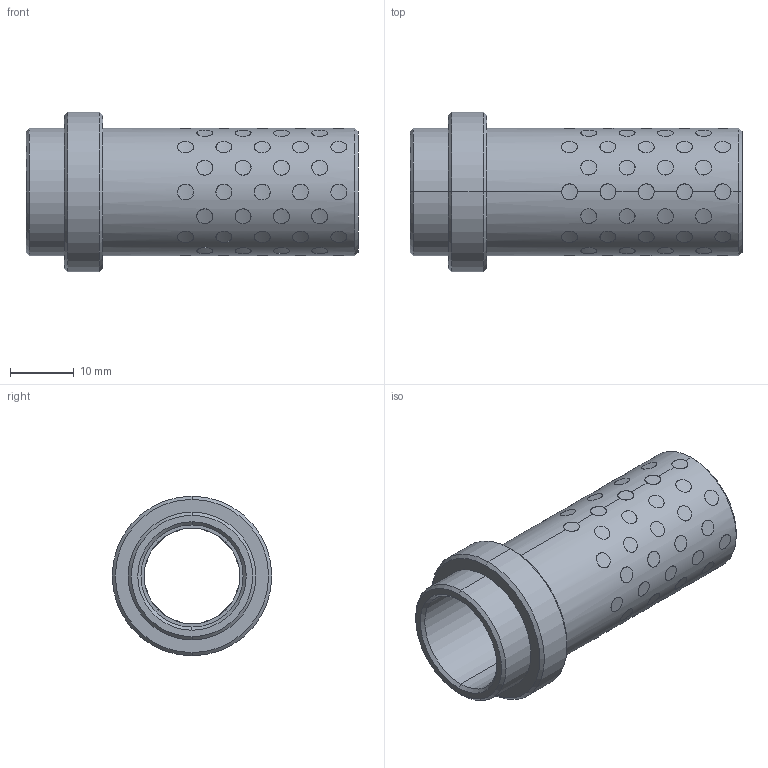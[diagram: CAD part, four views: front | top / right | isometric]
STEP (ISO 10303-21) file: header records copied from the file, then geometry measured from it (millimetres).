
FILE_DESCRIPTION((''),'2;1');
FILE_NAME('G31215046','2017-12-30T',('MANU'),(''),'PRO/ENGINEER BY PARAMETRIC TECHNOLOGY CORPORATION, 2012130','PRO/ENGINEER BY PARAMETRIC TECHNOLOGY CORPORATION, 2012130','');
FILE_SCHEMA(('CONFIG_CONTROL_DESIGN'));
Length unit declared in the file: millimetre
Products named in the file (1): G31215046
Bounding box: 52 x 25 x 25 mm (x, y, z)
Volume: 7613.9 mm3; surface area: 9222.6 mm2
Topology: 73 solids, 73 shells, 459 faces, 978 edges, 648 vertices
Faces by surface type: cylinder 442, cone 12, plane 5
Entity records: 20626 total; most frequent: CARTESIAN_POINT 11649, ORIENTED_EDGE 1956, DIRECTION 1312, EDGE_CURVE 978, VERTEX_POINT 648, B_SPLINE_CURVE_WITH_KNOTS 616, EDGE_LOOP 588, AXIS2_PLACEMENT_3D 491
